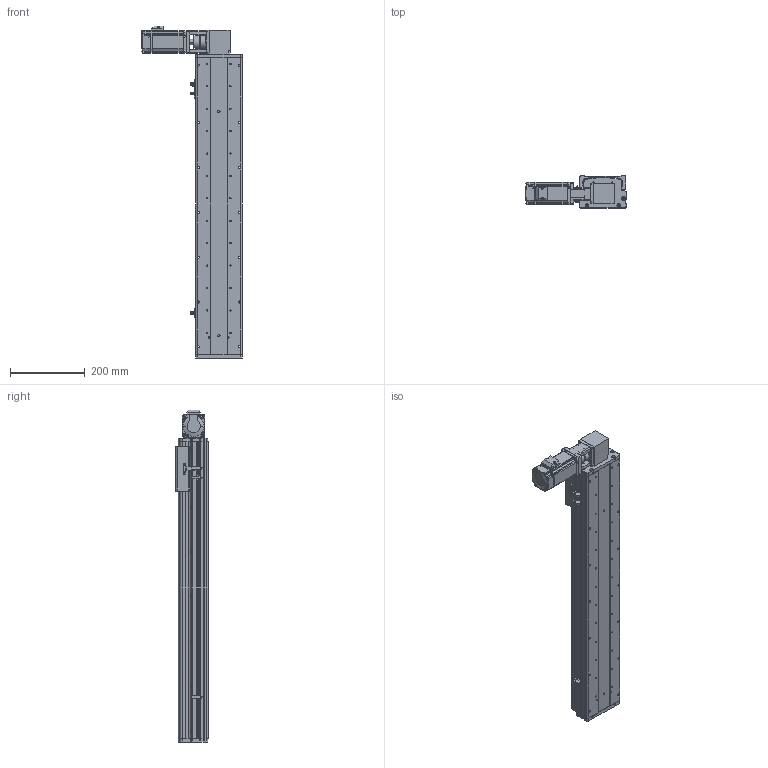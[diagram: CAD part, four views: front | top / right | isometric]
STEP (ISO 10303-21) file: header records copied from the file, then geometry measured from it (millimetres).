
FILE_DESCRIPTION (( 'STEP AP214' ), '1' );
FILE_NAME ('KSD125B-S600-MRT-CM.STEP', '2017-08-07T07:25:47', ( '微软用户' ), ( '微软中国' ), 'SwSTEP 2.0', 'SolidWorks 2014', '' );
FILE_SCHEMA (( 'AUTOMOTIVE_DESIGN' ));
Length unit declared in the file: millimetre
Products named in the file (16): KSD125模组同步带-防撞垫2; CS-34X32-10X14; 100遵鎮湛假蚾啣1 ; 覜茼え68遵圉猾敕; U倰嫖萇假蚾璃; U倰嫖萇EEㄜSX672; KSD125模组同步带-防撞垫1; 100宽安装板同步带带电机座400W,86; 100宽马达安装板同步带右; 前端板-125宽模组同步带; 125模组同步带-尾端板1; KSD125模组同步带-滑动座1; KSD125B-S600-MRT-CM; KSD125模组600行程同步带-防尘盖; 125模组600行程同步带-底板; MHMD042G1CA_2_03
Assembly tree (19 placements, depth 2):
  KSD125B-S600-MRT-CM
    KSD125模组同步带-滑动座1
    125模组同步带-尾端板1
    前端板-125宽模组同步带
    100宽马达安装板同步带右
    100宽安装板同步带带电机座400W,86
    KSD125模组同步带-防撞垫1
    U倰嫖萇EEㄜSX672  x3
    U倰嫖萇假蚾璃  x3
    覜茼え68遵圉猾敕
    100遵鎮湛假蚾啣1 
    CS-34X32-10X14
    KSD125模组同步带-防撞垫2
    MHMD042G1CA_2_03
    125模组600行程同步带-底板
    KSD125模组600行程同步带-防尘盖
Bounding box: 269 x 86 x 889 mm (x, y, z)
Volume: 2842026.9 mm3; surface area: 951347 mm2
Topology: 18 solids, 21 shells, 1660 faces, 4756 edges, 3136 vertices
Faces by surface type: cylinder 857, plane 700, cone 81, bspline 22
Entity records: 58176 total; most frequent: CARTESIAN_POINT 11786, DIRECTION 8507, ORIENTED_EDGE 8032, EDGE_CURVE 4094, AXIS2_PLACEMENT_3D 3153, VERTEX_POINT 2728, VECTOR 2201, LINE 2201
